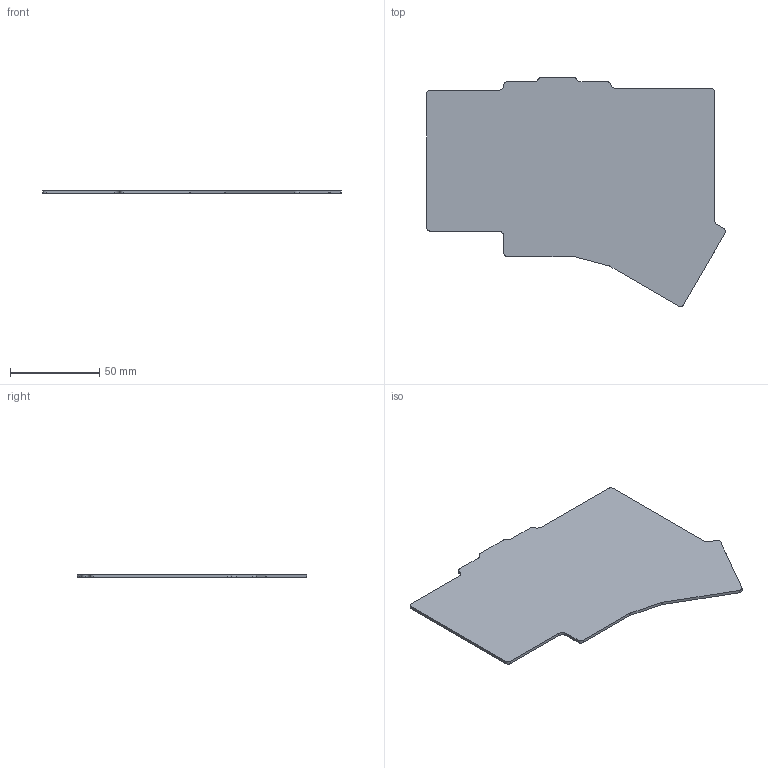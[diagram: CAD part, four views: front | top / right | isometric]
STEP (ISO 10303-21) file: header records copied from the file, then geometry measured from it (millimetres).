
FILE_DESCRIPTION(('Open CASCADE Model'),'2;1');
FILE_NAME('Open CASCADE Shape Model','2026-09-20T05:10:45',('Author'),( 'Open CASCADE'),'Open CASCADE STEP processor 8.0','Open CASCADE 8.0' ,'Unknown');
FILE_SCHEMA(('AP242_MANAGED_MODEL_BASED_3D_ENGINEERING_MIM_LF {1 0 10303 442 1 1 4 }' ));
Length unit declared in the file: millimetre
Products named in the file (1): Open CASCADE STEP translator 8.0 42
Bounding box: 167.42 x 128.41 x 1.6 mm (x, y, z)
Volume: 25373.4 mm3; surface area: 32576.9 mm2
Topology: 1 solids, 1 shells, 38 faces, 108 edges, 72 vertices
Faces by surface type: cylinder 21, plane 17
Entity records: 2728 total; most frequent: CARTESIAN_POINT 555, DIRECTION 424, LINE 240, VECTOR 240, ORIENTED_EDGE 216, PCURVE 216, DEFINITIONAL_REPRESENTATION 216, EDGE_CURVE 108
